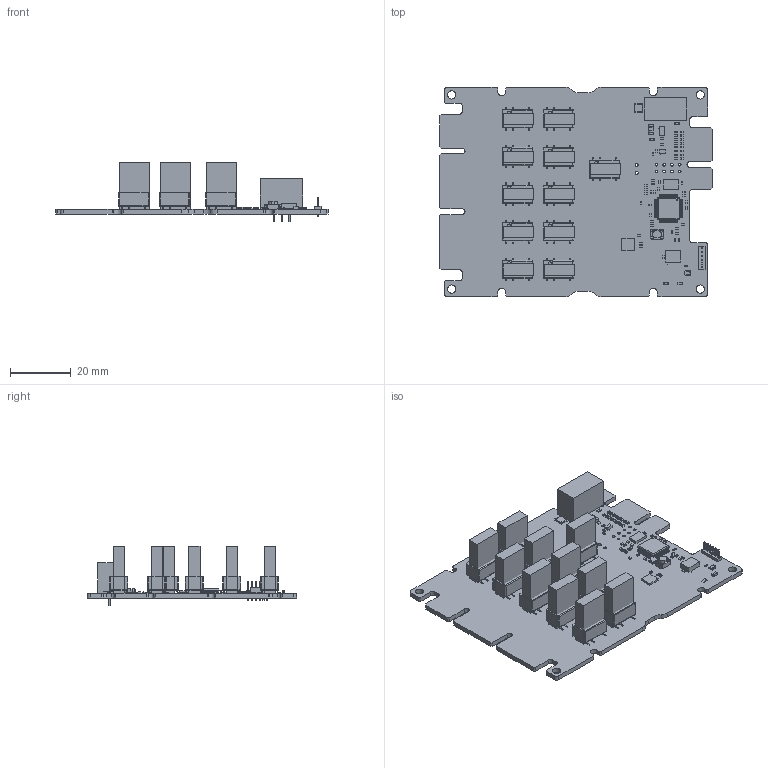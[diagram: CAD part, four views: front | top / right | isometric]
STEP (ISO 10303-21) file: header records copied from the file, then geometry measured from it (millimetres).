
FILE_DESCRIPTION(('Open CASCADE Model'),'2;1');
FILE_NAME('Open CASCADE Shape Model','2026-08-19T14:13:16',('Author'),( 'Open CASCADE'),'Open CASCADE STEP processor 7.5','Open CASCADE 7.5' ,'Unknown');
FILE_SCHEMA(('AUTOMOTIVE_DESIGN { 1 0 10303 214 1 1 1 1 }'));
Length unit declared in the file: millimetre
Products named in the file (219): Open CASCADE STEP translator 7.5 1973; Open CASCADE STEP translator 7.5 1974; Open CASCADE STEP translator 7.5 1975; Open CASCADE STEP translator 7.5 1976; Open CASCADE STEP translator 7.5 1977; Open CASCADE STEP translator 7.5 1978; Open CASCADE STEP translator 7.5 1979; Open CASCADE STEP translator 7.5 1980; Open CASCADE STEP translator 7.5 1981; Open CASCADE STEP translator 7.5 1982; Open CASCADE STEP translator 7.5 1983; Open CASCADE STEP translator 7.5 1984; Open CASCADE STEP translator 7.5 1985; Open CASCADE STEP translator 7.5 1986; Open CASCADE STEP translator 7.5 1987; Open CASCADE STEP translator 7.5 1988; Open CASCADE STEP translator 7.5 1989; Open CASCADE STEP translator 7.5 1990; Open CASCADE STEP translator 7.5 1991; Open CASCADE STEP translator 7.5 1992; Open CASCADE STEP translator 7.5 1993; Open CASCADE STEP translator 7.5 1994; Open CASCADE STEP translator 7.5 1995; Open CASCADE STEP translator 7.5 1996; Open CASCADE STEP translator 7.5 1997; Open CASCADE STEP translator 7.5 1998; Open CASCADE STEP translator 7.5 1999; Open CASCADE STEP translator 7.5 2000; Open CASCADE STEP translator 7.5 2001; Open CASCADE STEP translator 7.5 2002; Open CASCADE STEP translator 7.5 2003; Open CASCADE STEP translator 7.5 2004; Open CASCADE STEP translator 7.5 2005; Open CASCADE STEP translator 7.5 2006; Open CASCADE STEP translator 7.5 2007; Open CASCADE STEP translator 7.5 2008; Open CASCADE STEP translator 7.5 2009; Open CASCADE STEP translator 7.5 2010; Open CASCADE STEP translator 7.5 2011; Open CASCADE STEP translator 7.5 2012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
Bounding box: 90 x 69 x 19.6 mm (x, y, z)
Volume: 19799.8 mm3; surface area: 22790.1 mm2
Topology: 286 solids, 286 shells, 3824 faces, 9163 edges, 6023 vertices
Faces by surface type: plane 3212, cylinder 539, sphere 57, torus 8, bspline 4, cone 4
Full cylindrical faces by diameter (mm): 0.08 x1, 0.289 x1, 0.3 x6, 0.5 x3, 0.6 x6, 0.75 x66, 0.9 x8, 0.94 x3, 1 x2, 1.4 x1, 1.6 x2, 2.7 x4
Entity records: 118594 total; most frequent: CARTESIAN_POINT 19094, ORIENTED_EDGE 18326, DIRECTION 17876, EDGE_CURVE 9163, LINE 8062, VECTOR 8062, VERTEX_POINT 6023, AXIS2_PLACEMENT_3D 4907
